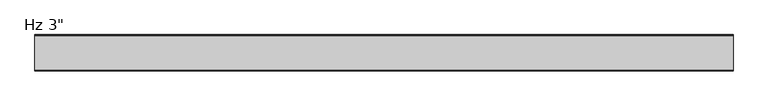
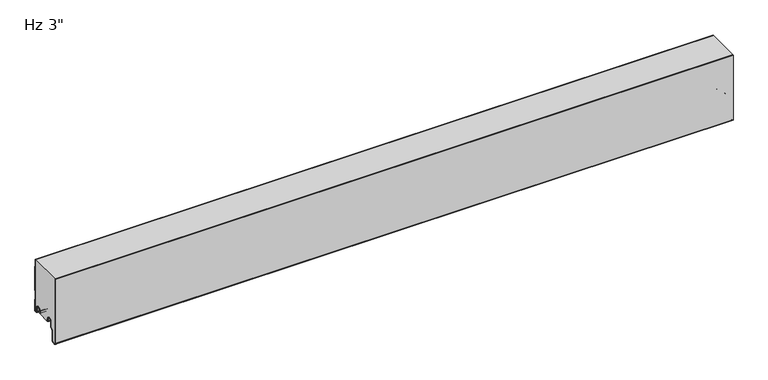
"""IFC4 building model written with IfcOpenShell, lengths in millimetres: plate geometry."""

from ifc_helpers import new_model, si_unit, point, frame, frame_2d, origin, place, context, project, spatial, polyline, circle_curve, trimmed, segment, composite_curve, outline, extrude, source, transform, mapped, element, save
from ifc_brep_helpers import plane_surface, cylinder_surface, revolved_surface, advanced_brep


def plate_75d5e287(model_context):
    return source(origin(), model_context, "Body", "SolidModel", [
        advanced_brep(
        [(-730.0, -17.0015159, 2.0313088), (-730.0, -18.0015191, 1.0313116), (-730.0, -19.0015105, 2.0313088), (-730.0, -19.0015105, 6.0315125), (-730.0, -18.0015159, 6.0315125), (-730.0, -18.0015159, 8.7237223), (-730.0, -14.7015202, 12.023718), (-730.0, -10.301529, 12.023718), (-730.0, -7.0015335, 8.7237225), (-730.0, -7.0015335, -1.6962564), (-730.0, -5.2315393, -3.4662506), (-730.0, -0.9999916, -3.4662506), (-730.0, -0.9999916, 21.034026), (-730.0, -2.2002307, 22.4196686), (-730.0, -2.2002307, 41.7948349), (-730.0, -1.0, 43.1804679), (-730.0, -1.0, 97.2338833), (-730.0, -2.2002307, 98.6195162), (-730.0, -2.2002307, 114.0), (-730.0, -1.2002307, 114.0), (-730.0, -1.2002307, 98.9923967), (-730.0, -0.3417885, 98.001349), (-730.0, 0.0, 97.0847321), (-730.0, 0.0, 43.329619), (-730.0, -0.3417885, 42.4130021), (-730.0, -1.2002307, 41.4219545), (-730.0, -1.2002307, 22.7925491), (-730.0, -0.3417885, 21.8015014), (-730.0, 0.0, 20.8847931), (-730.0, 8.4e-06, -3.0662545), (-730.0, -1.3999878, -4.4662506), (-730.0, -5.2315393, -4.4662506), (-730.0, -8.0015335, -1.6962564), (-730.0, -8.0015335, 8.7237225), (-730.0, -10.301529, 11.023718), (-730.0, -14.7015202, 11.023718), (-730.0, -17.0015159, 8.7237223), (730.0, -17.0015159, 2.0313088), (730.0, -17.0015159, 8.7237223), (730.0, -14.7015202, 11.023718), (730.0, -10.301529, 11.023718), (730.0, -8.0015335, 8.7237225), (730.0, -8.0015335, -1.6962564), (730.0, -5.2315393, -4.4662506), (730.0, -1.3999878, -4.4662506), (730.0, 8.4e-06, -3.0662545), (730.0, 8.4e-06, 20.8848845), (730.0, -0.3417885, 21.8015014), (730.0, -1.2002307, 22.7925491), (730.0, -1.2002307, 41.4219545), (730.0, -0.3417885, 42.4130021), (730.0, 0.0, 43.329619), (730.0, 0.0, 97.0847321), (730.0, -0.3417885, 98.001349), (730.0, -1.2002307, 98.9923967), (730.0, -1.2002307, 114.0), (730.0, -2.2002307, 114.0), (730.0, -2.2002307, 98.6195162), (730.0, -1.0, 97.2338833), (730.0, -1.0, 43.1804679), (730.0, -2.2002307, 41.7948349), (730.0, -2.2002307, 22.4196686), (730.0, -0.9999916, 21.034026), (730.0, -0.9999916, -3.4662506), (730.0, -5.2315393, -3.4662506), (730.0, -7.0015335, -1.6962564), (730.0, -7.0015335, 8.7237225), (730.0, -10.301529, 12.023718), (730.0, -14.7015202, 12.023718), (730.0, -18.0015159, 8.7237223), (730.0, -18.0015159, 6.0315125), (730.0, -19.0015105, 6.0315125), (730.0, -19.0015105, 2.0313088), (730.0, -18.0015192, 1.0313116)],
        [
            (0, 1, circle_curve(frame((-730.0, -18.0015132, 2.0313088), z_axis=(-1.0, 0.0, 0.0), x_axis=(0.0, 0.0, 1.0)), 0.9999973)),
            (1, 2, circle_curve(frame((-730.0, -18.0015133, 2.0313088), z_axis=(-1.0, 0.0, 0.0), x_axis=(0.0, 0.0, 1.0)), 0.9999972)),
            (2, 3),
            (3, 4),
            (4, 5),
            (5, 6, circle_curve(frame((-730.0, -14.7015202, 8.7237223), z_axis=(-1.0, 0.0, 0.0), x_axis=(0.0, 0.0, 1.0)), 3.2999957)),
            (6, 7),
            (7, 8, circle_curve(frame((-730.0, -10.301529, 8.7237225), z_axis=(-1.0, 0.0, 0.0), x_axis=(0.0, 0.0, 1.0)), 3.2999955)),
            (8, 9),
            (9, 10, circle_curve(frame((-730.0, -5.2315393, -1.6962564), z_axis=(1.0, 0.0, 0.0), x_axis=(0.0, 0.0, 1.0)), 1.7699942)),
            (10, 11),
            (11, 12),
            (12, 13),
            (13, 14),
            (14, 15),
            (15, 16),
            (16, 17),
            (17, 18),
            (18, 19),
            (19, 20),
            (20, 21),
            (21, 22, circle_curve(frame((-730.0, -1.3999972, 97.0847321), z_axis=(-1.0, 0.0, 0.0), x_axis=(0.0, 0.0, 1.0)), 1.3999972)),
            (22, 23),
            (23, 24, circle_curve(frame((-730.0, -1.3999972, 43.329619), z_axis=(-1.0, 0.0, 0.0), x_axis=(0.0, 0.0, 1.0)), 1.3999972)),
            (24, 25),
            (25, 26),
            (26, 27),
            (27, 28, circle_curve(frame((-730.0, -1.3999972, 20.8848845), z_axis=(-1.0, 0.0, 0.0), x_axis=(0.0, 0.0, 1.0)), 1.3999972)),
            (28, 29),
            (29, 30, circle_curve(frame((-730.0, -1.3999878, -3.0662545), z_axis=(-1.0, 0.0, 0.0), x_axis=(0.0, 0.0, 1.0)), 1.3999962)),
            (30, 31),
            (31, 32, circle_curve(frame((-730.0, -5.2315393, -1.6962564), z_axis=(-1.0, 0.0, 0.0), x_axis=(0.0, 0.0, 1.0)), 2.7699942)),
            (32, 33),
            (33, 34, circle_curve(frame((-730.0, -10.301529, 8.7237225), z_axis=(1.0, 0.0, 0.0), x_axis=(0.0, 0.0, 1.0)), 2.2999955)),
            (34, 35),
            (35, 36, circle_curve(frame((-730.0, -14.7015202, 8.7237223), z_axis=(1.0, 0.0, 0.0), x_axis=(0.0, 0.0, 1.0)), 2.2999957)),
            (36, 0),
            (37, 38),
            (38, 39, circle_curve(frame((730.0, -14.7015202, 8.7237223), z_axis=(-1.0, 0.0, 0.0), x_axis=(0.0, 0.0, 1.0)), 2.2999957)),
            (39, 40),
            (40, 41, circle_curve(frame((730.0, -10.301529, 8.7237225), z_axis=(-1.0, 0.0, 0.0), x_axis=(0.0, 0.0, 1.0)), 2.2999955)),
            (41, 42),
            (42, 43, circle_curve(frame((730.0, -5.2315393, -1.6962564), z_axis=(1.0, 0.0, 0.0), x_axis=(0.0, 0.0, 1.0)), 2.7699942)),
            (43, 44),
            (44, 45, circle_curve(frame((730.0, -1.3999878, -3.0662545), z_axis=(1.0, 0.0, 0.0), x_axis=(0.0, 0.0, 1.0)), 1.3999962)),
            (45, 46),
            (46, 47, circle_curve(frame((730.0, -1.3999972, 20.8848845), z_axis=(1.0, 0.0, 0.0), x_axis=(0.0, 0.0, 1.0)), 1.3999972)),
            (47, 48),
            (48, 49),
            (49, 50),
            (50, 51, circle_curve(frame((730.0, -1.3999972, 43.329619), z_axis=(1.0, 0.0, 0.0), x_axis=(0.0, 0.0, 1.0)), 1.3999972)),
            (51, 52),
            (52, 53, circle_curve(frame((730.0, -1.3999972, 97.0847321), z_axis=(1.0, 0.0, 0.0), x_axis=(0.0, 0.0, 1.0)), 1.3999972)),
            (53, 54),
            (54, 55),
            (55, 56),
            (56, 57),
            (57, 58),
            (58, 59),
            (59, 60),
            (60, 61),
            (61, 62),
            (62, 63),
            (63, 64),
            (64, 65, circle_curve(frame((730.0, -5.2315393, -1.6962564), z_axis=(-1.0, 0.0, 0.0), x_axis=(0.0, 0.0, 1.0)), 1.7699942)),
            (65, 66),
            (66, 67, circle_curve(frame((730.0, -10.301529, 8.7237225), z_axis=(1.0, 0.0, 0.0), x_axis=(0.0, 0.0, 1.0)), 3.2999955)),
            (67, 68),
            (68, 69, circle_curve(frame((730.0, -14.7015202, 8.7237223), z_axis=(1.0, 0.0, 0.0), x_axis=(0.0, 0.0, 1.0)), 3.2999957)),
            (69, 70),
            (70, 71),
            (71, 72),
            (72, 73, circle_curve(frame((730.0, -18.0015133, 2.0313088), z_axis=(1.0, 0.0, 0.0), x_axis=(0.0, 0.0, 1.0)), 0.9999972)),
            (73, 37, circle_curve(frame((730.0, -18.0015132, 2.0313088), z_axis=(1.0, 0.0, 0.0), x_axis=(0.0, 0.0, 1.0)), 0.9999973)),
            (18, 56),
            (55, 19),
            (36, 38),
            (37, 0),
            (35, 39),
            (34, 40),
            (33, 41),
            (32, 42),
            (31, 43),
            (30, 44),
            (29, 45),
            (28, 46),
            (27, 47),
            (26, 48),
            (25, 49),
            (24, 50),
            (23, 51),
            (22, 52),
            (21, 53),
            (20, 54),
            (17, 57),
            (16, 58),
            (15, 59),
            (14, 60),
            (13, 61),
            (12, 62),
            (11, 63),
            (10, 64),
            (9, 65),
            (8, 66),
            (7, 67),
            (6, 68),
            (5, 69),
            (4, 70),
            (3, 71),
            (2, 72),
            (1, 73),
        ],
        [
            plane_surface(frame((-730.0, 0.0, 381.0), z_axis=(-1.0, 0.0, 0.0), x_axis=(0.0, 1.0, 0.0))),
            plane_surface(frame((730.0, 0.0, 381.0), z_axis=(1.0, 0.0, 0.0), x_axis=(0.0, 1.0, 0.0))),
            plane_surface(frame((730.0, 10.0, 114.0), z_axis=(0.0, 0.0, 1.0), x_axis=(-1.0, 0.0, 0.0))),
            plane_surface(frame((-730.0, -17.0015159, 2.0313088), z_axis=(0.0, 1.0, 0.0), x_axis=(1.0, 0.0, 0.0))),
            revolved_surface(polyline([(730.0, -14.7015202, 11.023718), (-730.0, -14.7015202, 11.023718)]), (-730.0, -14.7015202, 8.7237223), (1.0, 0.0, 0.0)),
            plane_surface(frame((-730.0, -14.7015202, 11.023718), z_axis=(0.0, 0.0, -1.0), x_axis=(1.0, 0.0, 0.0))),
            revolved_surface(polyline([(730.0, -10.301529, 11.023717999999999), (-730.0, -10.301529, 11.023717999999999)]), (-730.0, -10.301529, 8.7237225), (1.0, 0.0, 0.0)),
            plane_surface(frame((-730.0, -8.0015335, 8.7237225), z_axis=(0.0, -1.0, 0.0), x_axis=(1.0, 0.0, 0.0))),
            cylinder_surface(frame((-730.0, -5.2315393, -1.6962564), z_axis=(-1.0, 0.0, 0.0), x_axis=(0.0, 0.0, 1.0)), 2.7699942),
            plane_surface(frame((-730.0, -5.2315393, -4.4662506), z_axis=(0.0, 0.0, -1.0), x_axis=(1.0, 0.0, 0.0))),
            cylinder_surface(frame((-730.0, -1.3999878, -3.0662545), z_axis=(-1.0, 0.0, 0.0), x_axis=(0.0, 0.0, 1.0)), 1.3999962),
            plane_surface(frame((-730.0, 8.4e-06, -3.0662545), z_axis=(0.0, 1.0, 0.0), x_axis=(1.0, 0.0, 0.0))),
            cylinder_surface(frame((-730.0, -1.3999972, 20.8848845), z_axis=(-1.0, 0.0, 0.0), x_axis=(0.0, 0.0, 1.0)), 1.3999972),
            plane_surface(frame((-730.0, -0.3417885, 21.8015014), z_axis=(0.0, 0.755864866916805, 0.6547276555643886), x_axis=(1.0, 0.0, 0.0))),
            plane_surface(frame((-730.0, -1.2002307, 32.1072518), z_axis=(0.0, 1.0, 0.0), x_axis=(1.0, 0.0, 0.0))),
            plane_surface(frame((-730.0, -1.2002307, 41.4219545), z_axis=(0.0, 0.755864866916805, -0.6547276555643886), x_axis=(1.0, 0.0, 0.0))),
            cylinder_surface(frame((-730.0, -1.3999972, 43.329619), z_axis=(-1.0, 0.0, 0.0), x_axis=(0.0, 0.0, 1.0)), 1.3999972),
            plane_surface(frame((-730.0, 0.0, 43.329619), z_axis=(0.0, 1.0, 0.0), x_axis=(1.0, 0.0, 0.0))),
            cylinder_surface(frame((-730.0, -1.3999972, 97.0847321), z_axis=(-1.0, 0.0, 0.0), x_axis=(0.0, 0.0, 1.0)), 1.3999972),
            plane_surface(frame((-730.0, -0.3417885, 98.001349), z_axis=(0.0, 0.755864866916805, 0.6547276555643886), x_axis=(1.0, 0.0, 0.0))),
            plane_surface(frame((-730.0, -1.2002307, 108.3070994), z_axis=(0.0, 1.0, 0.0), x_axis=(1.0, 0.0, 0.0))),
            plane_surface(frame((-730.0, -2.2002307, 117.9946825), z_axis=(0.0, -1.0, 0.0), x_axis=(1.0, 0.0, 0.0))),
            plane_surface(frame((-730.0, -2.2002307, 98.6195162), z_axis=(0.0, -0.755864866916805, -0.6547276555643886), x_axis=(1.0, 0.0, 0.0))),
            plane_surface(frame((-730.0, -1.0, 97.2338833), z_axis=(0.0, -1.0, 0.0), x_axis=(1.0, 0.0, 0.0))),
            plane_surface(frame((-730.0, -1.0, 43.1804679), z_axis=(0.0, -0.755864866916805, 0.6547276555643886), x_axis=(1.0, 0.0, 0.0))),
            plane_surface(frame((-730.0, -2.2002307, 41.7948349), z_axis=(0.0, -1.0, 0.0), x_axis=(1.0, 0.0, 0.0))),
            plane_surface(frame((-730.0, -2.2002307, 22.4196686), z_axis=(0.0, -0.755864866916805, -0.6547276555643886), x_axis=(1.0, 0.0, 0.0))),
            plane_surface(frame((-730.0, -0.9999916, 21.034026), z_axis=(0.0, -1.0, 0.0), x_axis=(1.0, 0.0, 0.0))),
            plane_surface(frame((-730.0, -0.9999916, -3.4662506), z_axis=(0.0, 0.0, 1.0), x_axis=(1.0, 0.0, 0.0))),
            revolved_surface(polyline([(730.0, -5.2315393, 0.07373779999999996), (-730.0, -5.2315393, 0.07373779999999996)]), (-730.0, -5.2315393, -1.6962564), (1.0, 0.0, 0.0)),
            plane_surface(frame((-730.0, -7.0015335, -1.6962564), z_axis=(0.0, 1.0, 0.0), x_axis=(1.0, 0.0, 0.0))),
            cylinder_surface(frame((-730.0, -10.301529, 8.7237225), z_axis=(-1.0, 0.0, 0.0), x_axis=(0.0, 0.0, 1.0)), 3.2999955),
            plane_surface(frame((-730.0, -10.301529, 12.023718), z_axis=(0.0, 0.0, 1.0), x_axis=(1.0, 0.0, 0.0))),
            cylinder_surface(frame((-730.0, -14.7015202, 8.7237223), z_axis=(-1.0, 0.0, 0.0), x_axis=(0.0, 0.0, 1.0)), 3.2999957),
            plane_surface(frame((-730.0, -18.0015159, 8.7237223), z_axis=(0.0, -1.0, 0.0), x_axis=(1.0, 0.0, 0.0))),
            plane_surface(frame((-730.0, -18.0015159, 6.0315125), z_axis=(0.0, 0.0, 1.0), x_axis=(1.0, 0.0, 0.0))),
            plane_surface(frame((-730.0, -19.0015105, 6.0315125), z_axis=(0.0, -1.0, 0.0), x_axis=(1.0, 0.0, 0.0))),
            cylinder_surface(frame((-730.0, -18.0015133, 2.0313088), z_axis=(-1.0, 0.0, 0.0), x_axis=(0.0, 0.0, 1.0)), 0.9999972),
            cylinder_surface(frame((-730.0, -18.0015132, 2.0313088), z_axis=(-1.0, 0.0, 0.0), x_axis=(0.0, 0.0, 1.0)), 0.9999973),
        ],
        [
            (0, [[1, 2, 3, 4, 5, 6, 7, 8, 9, 10, 11, 12, 13, 14, 15, 16, 17, 18, 19, 20, 21, 22, 23, 24, 25, 26, 27, 28, 29, 30, 31, 32, 33, 34, 35, 36, 37]]),
            (1, [[38, 39, 40, 41, 42, 43, 44, 45, 46, 47, 48, 49, 50, 51, 52, 53, 54, 55, 56, 57, 58, 59, 60, 61, 62, 63, 64, 65, 66, 67, 68, 69, 70, 71, 72, 73, 74]]),
            (2, [[75, -56, 76, -19]]),
            (3, [[77, -38, 78, -37]]),
            (4, [[79, -39, -77, -36]]),
            (5, [[80, -40, -79, -35]]),
            (6, [[81, -41, -80, -34]]),
            (7, [[82, -42, -81, -33]]),
            (8, [[83, -43, -82, -32]]),
            (9, [[84, -44, -83, -31]]),
            (10, [[85, -45, -84, -30]]),
            (11, [[86, -46, -85, -29]]),
            (12, [[87, -47, -86, -28]]),
            (13, [[88, -48, -87, -27]]),
            (14, [[89, -49, -88, -26]]),
            (15, [[90, -50, -89, -25]]),
            (16, [[91, -51, -90, -24]]),
            (17, [[92, -52, -91, -23]]),
            (18, [[93, -53, -92, -22]]),
            (19, [[94, -54, -93, -21]]),
            (20, [[-20, -76, -55, -94]]),
            (21, [[-57, -75, -18, 95]]),
            (22, [[96, -58, -95, -17]]),
            (23, [[97, -59, -96, -16]]),
            (24, [[98, -60, -97, -15]]),
            (25, [[99, -61, -98, -14]]),
            (26, [[100, -62, -99, -13]]),
            (27, [[101, -63, -100, -12]]),
            (28, [[102, -64, -101, -11]]),
            (29, [[103, -65, -102, -10]]),
            (30, [[104, -66, -103, -9]]),
            (31, [[105, -67, -104, -8]]),
            (32, [[106, -68, -105, -7]]),
            (33, [[107, -69, -106, -6]]),
            (34, [[108, -70, -107, -5]]),
            (35, [[109, -71, -108, -4]]),
            (36, [[110, -72, -109, -3]]),
            (37, [[111, -73, -110, -2]]),
            (38, [[-78, -74, -111, -1]]),
        ],
    ),
        extrude(outline(composite_curve([segment(trimmed(circle_curve(frame_2d((-72.6296795, -32.4521105)), 3.5702393), [point((-72.3184091, -36.0087549))], [point((-76.1999188, -32.4521083))], False, "CARTESIAN"), True, "CONTINUOUS"), segment(polyline([(-76.1999188, -32.4521083), (-76.1998251, 114.0), (-75.1993606, 114.0), (-75.1993606, -32.509446)]), True, "CONTINUOUS"), segment(trimmed(circle_curve(frame_2d((-72.6297607, -32.4521176)), 2.5702393), [point((-75.1993606, -32.509446))], [point((-72.4056751, -35.0125699))], True, "CARTESIAN"), True, "CONTINUOUS"), segment(polyline([(-72.4056751, -35.0125699), (-67.4238542, -34.5765709)]), True, "CONTINUOUS"), segment(trimmed(circle_curve(frame_2d((-67.9052448, -31.9198392)), 2.6999926), [point((-67.4238542, -34.5765709))], [point((-65.2052522, -31.9198392))], True, "CARTESIAN"), True, "CONTINUOUS"), segment(polyline([(-65.2052522, -31.9198392), (-65.2052522, -9.8247096), (-59.7031811, -4.3226385)]), True, "CONTINUOUS"), segment(trimmed(circle_curve(frame_2d((-60.9052588, -3.1205608)), 1.6999946), [point((-59.7031811, -4.3226385))], [point((-59.2052642, -3.1205608))], True, "CARTESIAN"), True, "CONTINUOUS"), segment(polyline([(-59.2052642, -3.1205608), (-59.2052642, 8.6903283)]), True, "CONTINUOUS"), segment(trimmed(circle_curve(frame_2d((-55.8552689, 8.6903283)), 3.3499953), [point((-59.2052642, 8.6903283))], [point((-55.8552689, 12.0403236))], False, "CARTESIAN"), True, "CONTINUOUS"), segment(polyline([(-55.8552689, 12.0403236), (-51.4552777, 12.0403236)]), True, "CONTINUOUS"), segment(trimmed(circle_curve(frame_2d((-51.4552777, 8.6903283)), 3.3499953), [point((-51.4552777, 12.0403236))], [point((-48.1052824, 8.6903283))], False, "CARTESIAN"), True, "CONTINUOUS"), segment(polyline([(-48.1052824, 8.6903283), (-48.1052824, 5.9912173), (-46.7068035, 5.9912173), (-46.7068035, 2.2328239)]), True, "CONTINUOUS"), segment(trimmed(circle_curve(frame_2d((-47.9068002, 2.2313092)), 1.1999976), [point((-46.7068035, 2.2328239))], [point((-47.8762782, 1.0316999))], False, "CARTESIAN"), True, "CONTINUOUS"), segment(trimmed(circle_curve(frame_2d((-47.9068002, 2.2313092)), 1.1999976), [point((-47.8762782, 1.0316999))], [point((-49.1052824, 2.1710221))], False, "CARTESIAN"), True, "CONTINUOUS"), segment(polyline([(-49.1052824, 2.1710221), (-49.1052824, 8.6903283)]), True, "CONTINUOUS"), segment(trimmed(circle_curve(frame_2d((-51.4552777, 8.6903283)), 2.3499953), [point((-49.1052824, 8.6903283))], [point((-51.4552777, 11.0403236))], True, "CARTESIAN"), True, "CONTINUOUS"), segment(polyline([(-51.4552777, 11.0403236), (-55.8552689, 11.0403236)]), True, "CONTINUOUS"), segment(trimmed(circle_curve(frame_2d((-55.8552689, 8.6903283)), 2.3499953), [point((-55.8552689, 11.0403236))], [point((-58.2052642, 8.6903283))], True, "CARTESIAN"), True, "CONTINUOUS"), segment(polyline([(-58.2052642, 8.6903283), (-58.2052642, -3.1205608)]), True, "CONTINUOUS"), segment(trimmed(circle_curve(frame_2d((-60.9052588, -3.1205608)), 2.6999946), [point((-58.2052642, -3.1205608))], [point((-58.9960743, -5.0297453))], False, "CARTESIAN"), True, "CONTINUOUS"), segment(polyline([(-58.9960743, -5.0297453), (-63.8244918, -9.8581627)]), True, "CONTINUOUS"), segment(trimmed(circle_curve(frame_2d((-62.9052548, -10.7773997)), 1.2999974), [point((-63.8244918, -9.8581627))], [point((-64.2052522, -10.7773997))], True, "CARTESIAN"), True, "CONTINUOUS"), segment(polyline([(-64.2052522, -10.7773997), (-64.2052522, -31.9198392)]), True, "CONTINUOUS"), segment(trimmed(circle_curve(frame_2d((-67.9052448, -31.9198392)), 3.6999926), [point((-64.2052522, -31.9198392))], [point((-67.2944437, -35.5690675))], False, "CARTESIAN"), True, "CONTINUOUS"), segment(polyline([(-67.2944437, -35.5690675), (-72.3184091, -36.0087549)]), True, "CONTINUOUS")], self_intersect=False)), frame((-730.0, 0.0, 0.0), z_axis=(1.0, 0.0, 0.0), x_axis=(0.0, 1.0, 0.0)), (0.0, 0.0, 1.0), 1460.0),
        advanced_brep(
        [(-730.0, -47.870875, 1.0316999), (-730.0, -46.7014003, 2.2328239), (-730.0, -46.7014003, 5.9912173), (-730.0, -48.0998791, 5.9912173), (-730.0, -48.0998791, 8.6903283), (-730.0, -51.4498744, 12.0403236), (-730.0, -55.8498656, 12.0403236), (-730.0, -59.1998609, 8.6903283), (-730.0, -59.1998609, -3.1205608), (-730.0, -59.6977778, -4.3226385), (-730.0, -65.1998489, -9.8247096), (-730.0, -65.1998489, -31.9198392), (-730.0, -67.4184509, -34.5765709), (-730.0, -72.4002718, -35.0125699), (-730.0, -75.1945967, -32.4521176), (-730.0, -75.2, 114.0), (-730.0, -2.2002307, 114.0), (-730.0, -2.2002307, 98.6195163), (-730.0, -1.0, 97.2338833), (-730.0, -1.0, 43.1804679), (-730.0, -2.2002307, 41.794835), (-730.0, -2.2002307, 22.4196687), (-730.0, -0.9999916, 21.034026), (-730.0, -0.9999916, -3.4662506), (-730.0, -5.2315389, -3.4662506), (-730.0, -7.0015331, -1.6962564), (-730.0, -7.0015331, 8.7237222), (-730.0, -10.301529, 12.023718), (-730.0, -14.7015202, 12.023718), (-730.0, -18.0015159, 8.7237223), (-730.0, -18.0015159, 6.0315125), (-730.0, -19.0015105, 6.0315125), (-730.0, -19.0015105, 2.0313089), (-730.0, -18.0015192, 1.0313117), (-730.0, -19.0328308, 0.0), (-730.0, -46.8391751, 0.0), (730.0, -47.870875, 1.0316999), (730.0, -46.8391751, 0.0), (730.0, -19.0328308, 0.0), (730.0, -18.0015192, 1.0313117), (730.0, -19.0015105, 2.0313089), (730.0, -19.0015105, 6.0315125), (730.0, -18.0015159, 6.0315125), (730.0, -18.0015159, 8.7237223), (730.0, -14.7015202, 12.023718), (730.0, -10.301529, 12.023718), (730.0, -7.0015331, 8.7237222), (730.0, -7.0015331, -1.6962564), (730.0, -5.2315389, -3.4662506), (730.0, -0.9999916, -3.4662506), (730.0, -0.9999916, 21.034026), (730.0, -2.2002307, 22.4196687), (730.0, -2.2002307, 41.794835), (730.0, -1.0, 43.1804679), (730.0, -1.0, 97.2338833), (730.0, -2.2002307, 98.6195163), (730.0, -2.2002307, 114.0), (730.0, -75.2, 114.0), (730.0, -75.2, -32.4521176), (730.0, -72.4002718, -35.0125699), (730.0, -67.4184509, -34.5765709), (730.0, -65.1998489, -31.9198392), (730.0, -65.1998489, -9.8247096), (730.0, -59.6977778, -4.3226385), (730.0, -59.1998609, -3.1205608), (730.0, -59.1998609, 8.6903283), (730.0, -55.8498656, 12.0403236), (730.0, -51.4498744, 12.0403236), (730.0, -48.0998791, 8.6903283), (730.0, -48.0998791, 5.9912173), (730.0, -46.7014003, 5.9912173), (730.0, -46.7014003, 2.2328239)],
        [
            (0, 1, circle_curve(frame((-730.0, -47.9013969, 2.2313092), z_axis=(1.0, 0.0, 0.0), x_axis=(0.0, 0.0, -1.0)), 1.1999976)),
            (1, 2),
            (2, 3),
            (3, 4),
            (4, 5, circle_curve(frame((-730.0, -51.4498744, 8.6903283), z_axis=(1.0, 0.0, 0.0), x_axis=(0.0, 0.0, -1.0)), 3.3499953)),
            (5, 6),
            (6, 7, circle_curve(frame((-730.0, -55.8498656, 8.6903283), z_axis=(1.0, 0.0, 0.0), x_axis=(0.0, 0.0, -1.0)), 3.3499953)),
            (7, 8),
            (8, 9, circle_curve(frame((-730.0, -60.8998555, -3.1205608), z_axis=(-1.0, 0.0, 0.0), x_axis=(0.0, 0.0, -1.0)), 1.6999946)),
            (9, 10),
            (10, 11),
            (11, 12, circle_curve(frame((-730.0, -67.8998415, -31.9198392), z_axis=(-1.0, 0.0, 0.0), x_axis=(0.0, 0.0, -1.0)), 2.6999926)),
            (12, 13),
            (13, 14, circle_curve(frame((-730.0, -72.6243575, -32.4521176), z_axis=(-1.0, 0.0, 0.0), x_axis=(0.0, 0.0, -1.0)), 2.5702393)),
            (14, 15),
            (15, 16),
            (16, 17),
            (17, 18),
            (18, 19),
            (19, 20),
            (20, 21),
            (21, 22),
            (22, 23),
            (23, 24),
            (24, 25, circle_curve(frame((-730.0, -5.2315389, -1.6962564), z_axis=(-1.0, 0.0, 0.0), x_axis=(0.0, 0.0, 1.0)), 1.7699942)),
            (25, 26),
            (26, 27, circle_curve(frame((-730.0, -10.301529, 8.7237222), z_axis=(1.0, 0.0, 0.0), x_axis=(0.0, 0.0, 1.0)), 3.2999959)),
            (27, 28),
            (28, 29, circle_curve(frame((-730.0, -14.7015202, 8.7237223), z_axis=(1.0, 0.0, 0.0), x_axis=(0.0, 0.0, 1.0)), 3.2999957)),
            (29, 30),
            (30, 31),
            (31, 32),
            (32, 33, circle_curve(frame((-730.0, -18.0015133, 2.0313089), z_axis=(1.0, 0.0, 0.0), x_axis=(0.0, 0.0, 1.0)), 0.9999972)),
            (33, 34),
            (34, 35),
            (35, 0),
            (36, 37),
            (37, 38),
            (38, 39),
            (39, 40, circle_curve(frame((730.0, -18.0015133, 2.0313089), z_axis=(-1.0, 0.0, 0.0), x_axis=(0.0, 0.0, 1.0)), 0.9999972)),
            (40, 41),
            (41, 42),
            (42, 43),
            (43, 44, circle_curve(frame((730.0, -14.7015202, 8.7237223), z_axis=(-1.0, 0.0, 0.0), x_axis=(0.0, 0.0, 1.0)), 3.2999957)),
            (44, 45),
            (45, 46, circle_curve(frame((730.0, -10.301529, 8.7237222), z_axis=(-1.0, 0.0, 0.0), x_axis=(0.0, 0.0, 1.0)), 3.2999959)),
            (46, 47),
            (47, 48, circle_curve(frame((730.0, -5.2315389, -1.6962564), z_axis=(1.0, 0.0, 0.0), x_axis=(0.0, 0.0, 1.0)), 1.7699942)),
            (48, 49),
            (49, 50),
            (50, 51),
            (51, 52),
            (52, 53),
            (53, 54),
            (54, 55),
            (55, 56),
            (56, 57),
            (57, 58),
            (58, 59, circle_curve(frame((730.0, -72.6243575, -32.4521176), z_axis=(1.0, 0.0, 0.0), x_axis=(0.0, 0.0, -1.0)), 2.5702393)),
            (59, 60),
            (60, 61, circle_curve(frame((730.0, -67.8998415, -31.9198392), z_axis=(1.0, 0.0, 0.0), x_axis=(0.0, 0.0, -1.0)), 2.6999926)),
            (61, 62),
            (62, 63),
            (63, 64, circle_curve(frame((730.0, -60.8998555, -3.1205608), z_axis=(1.0, 0.0, 0.0), x_axis=(0.0, 0.0, -1.0)), 1.6999946)),
            (64, 65),
            (65, 66, circle_curve(frame((730.0, -55.8498656, 8.6903283), z_axis=(-1.0, 0.0, 0.0), x_axis=(0.0, 0.0, -1.0)), 3.3499953)),
            (66, 67),
            (67, 68, circle_curve(frame((730.0, -51.4498744, 8.6903283), z_axis=(-1.0, 0.0, 0.0), x_axis=(0.0, 0.0, -1.0)), 3.3499953)),
            (68, 69),
            (69, 70),
            (70, 71),
            (71, 36, circle_curve(frame((730.0, -47.9013969, 2.2313092), z_axis=(-1.0, 0.0, 0.0), x_axis=(0.0, 0.0, -1.0)), 1.1999976)),
            (35, 37),
            (36, 0),
            (34, 38),
            (57, 15),
            (14, 58),
            (13, 59),
            (12, 60),
            (11, 61),
            (10, 62),
            (9, 63),
            (8, 64),
            (7, 65),
            (6, 66),
            (5, 67),
            (4, 68),
            (3, 69),
            (2, 70),
            (1, 71),
            (56, 16),
            (33, 39),
            (32, 40),
            (31, 41),
            (30, 42),
            (29, 43),
            (28, 44),
            (27, 45),
            (26, 46),
            (25, 47),
            (24, 48),
            (23, 49),
            (22, 50),
            (21, 51),
            (20, 52),
            (19, 53),
            (18, 54),
            (17, 55),
        ],
        [
            plane_surface(frame((-730.0, -75.2, 381.0), z_axis=(-1.0, 0.0, 0.0), x_axis=(0.0, -1.0, 0.0))),
            plane_surface(frame((730.0, -75.2, 381.0), z_axis=(1.0, 0.0, 0.0), x_axis=(0.0, -1.0, 0.0))),
            plane_surface(frame((-730.0, -47.870875, 1.0316999), z_axis=(0.0, -0.7071067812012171, -0.707106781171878), x_axis=(1.0, 0.0, 0.0))),
            plane_surface(frame((-730.0, -46.8391751, 0.0), z_axis=(0.0, 0.0, -1.0), x_axis=(1.0, 0.0, 0.0))),
            plane_surface(frame((-730.0, -75.2, 713.515622), z_axis=(0.0, -1.0, 0.0), x_axis=(1.0, 0.0, 0.0))),
            cylinder_surface(frame((-730.0, -72.6243575, -32.4521176), z_axis=(-1.0, 0.0, 0.0), x_axis=(0.0, 0.0, -1.0)), 2.5702393),
            plane_surface(frame((-730.0, -72.4002718, -35.0125699), z_axis=(0.0, 0.08718474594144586, -0.9961921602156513), x_axis=(1.0, 0.0, 0.0))),
            cylinder_surface(frame((-730.0, -67.8998415, -31.9198392), z_axis=(-1.0, 0.0, 0.0), x_axis=(0.0, 0.0, -1.0)), 2.6999926),
            plane_surface(frame((-730.0, -65.1998489, -31.9198392), z_axis=(0.0, 1.0, 0.0), x_axis=(1.0, 0.0, 0.0))),
            plane_surface(frame((-730.0, -65.1998489, -9.8247096), z_axis=(0.0, 0.7071067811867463, -0.7071067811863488), x_axis=(1.0, 0.0, 0.0))),
            cylinder_surface(frame((-730.0, -60.8998555, -3.1205608), z_axis=(-1.0, 0.0, 0.0), x_axis=(0.0, 0.0, -1.0)), 1.6999946),
            plane_surface(frame((-730.0, -59.1998609, -3.1205608), z_axis=(0.0, 1.0, 0.0), x_axis=(1.0, 0.0, 0.0))),
            revolved_surface(polyline([(730.0, -55.8498656, 5.340332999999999), (-730.0, -55.8498656, 5.340332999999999)]), (-730.0, -55.8498656, 8.6903283), (1.0, 0.0, 0.0)),
            plane_surface(frame((-730.0, -55.8498656, 12.0403236), z_axis=(0.0, 0.0, -1.0), x_axis=(1.0, 0.0, 0.0))),
            revolved_surface(polyline([(730.0, -51.4498744, 5.340332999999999), (-730.0, -51.4498744, 5.340332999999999)]), (-730.0, -51.4498744, 8.6903283), (1.0, 0.0, 0.0)),
            plane_surface(frame((-730.0, -48.0998791, 8.6903283), z_axis=(0.0, -1.0, 0.0), x_axis=(1.0, 0.0, 0.0))),
            plane_surface(frame((-730.0, -48.0998791, 5.9912173), z_axis=(0.0, 0.0, -1.0), x_axis=(1.0, 0.0, 0.0))),
            plane_surface(frame((-730.0, -46.7014003, 5.9912173), z_axis=(0.0, -1.0, 0.0), x_axis=(1.0, 0.0, 0.0))),
            revolved_surface(polyline([(730.0, -47.9013969, 1.0313116), (-730.0, -47.9013969, 1.0313116)]), (-730.0, -47.9013969, 2.2313092), (1.0, 0.0, 0.0)),
            plane_surface(frame((730.0, 10.0, 114.0), z_axis=(0.0, 0.0, 1.0), x_axis=(-1.0, 0.0, 0.0))),
            plane_surface(frame((-730.0, -19.0328308, 0.0), z_axis=(0.0, 0.7071067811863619, -0.7071067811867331), x_axis=(1.0, 0.0, 0.0))),
            revolved_surface(polyline([(730.0, -18.0015133, 3.0313061), (-730.0, -18.0015133, 3.0313061)]), (-730.0, -18.0015133, 2.0313089), (1.0, 0.0, 0.0)),
            plane_surface(frame((-730.0, -19.0015105, 2.0313089), z_axis=(0.0, 1.0, 0.0), x_axis=(1.0, 0.0, 0.0))),
            plane_surface(frame((-730.0, -19.0015105, 6.0315125), z_axis=(0.0, 0.0, -1.0), x_axis=(1.0, 0.0, 0.0))),
            plane_surface(frame((-730.0, -18.0015159, 6.0315125), z_axis=(0.0, 1.0, 0.0), x_axis=(1.0, 0.0, 0.0))),
            revolved_surface(polyline([(730.0, -14.7015202, 12.023718), (-730.0, -14.7015202, 12.023718)]), (-730.0, -14.7015202, 8.7237223), (1.0, 0.0, 0.0)),
            plane_surface(frame((-730.0, -14.7015202, 12.023718), z_axis=(0.0, 0.0, -1.0), x_axis=(1.0, 0.0, 0.0))),
            revolved_surface(polyline([(730.0, -10.301529, 12.0237181), (-730.0, -10.301529, 12.0237181)]), (-730.0, -10.301529, 8.7237222), (1.0, 0.0, 0.0)),
            plane_surface(frame((-730.0, -7.0015331, 8.7237222), z_axis=(0.0, -1.0, 0.0), x_axis=(1.0, 0.0, 0.0))),
            cylinder_surface(frame((-730.0, -5.2315389, -1.6962564), z_axis=(-1.0, 0.0, 0.0), x_axis=(0.0, 0.0, 1.0)), 1.7699942),
            plane_surface(frame((-730.0, -5.2315389, -3.4662506), z_axis=(0.0, 0.0, -1.0), x_axis=(1.0, 0.0, 0.0))),
            plane_surface(frame((-730.0, -0.9999916, -3.4662506), z_axis=(0.0, 1.0, 0.0), x_axis=(1.0, 0.0, 0.0))),
            plane_surface(frame((-730.0, -0.9999916, 21.034026), z_axis=(0.0, 0.7558648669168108, 0.6547276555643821), x_axis=(1.0, 0.0, 0.0))),
            plane_surface(frame((-730.0, -2.2002307, 22.4196687), z_axis=(0.0, 1.0, 0.0), x_axis=(1.0, 0.0, 0.0))),
            plane_surface(frame((-730.0, -2.2002307, 41.794835), z_axis=(0.0, 0.7558648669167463, -0.6547276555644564), x_axis=(1.0, 0.0, 0.0))),
            plane_surface(frame((-730.0, -1.0, 43.1804679), z_axis=(0.0, 1.0, 0.0), x_axis=(1.0, 0.0, 0.0))),
            plane_surface(frame((-730.0, -1.0, 97.2338833), z_axis=(0.0, 0.7558648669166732, 0.6547276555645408), x_axis=(1.0, 0.0, 0.0))),
            plane_surface(frame((-730.0, -2.2002307, 98.6195163), z_axis=(0.0, 1.0, 0.0), x_axis=(1.0, 0.0, 0.0))),
        ],
        [
            (0, [[1, 2, 3, 4, 5, 6, 7, 8, 9, 10, 11, 12, 13, 14, 15, 16, 17, 18, 19, 20, 21, 22, 23, 24, 25, 26, 27, 28, 29, 30, 31, 32, 33, 34, 35, 36]]),
            (1, [[37, 38, 39, 40, 41, 42, 43, 44, 45, 46, 47, 48, 49, 50, 51, 52, 53, 54, 55, 56, 57, 58, 59, 60, 61, 62, 63, 64, 65, 66, 67, 68, 69, 70, 71, 72]]),
            (2, [[73, -37, 74, -36]]),
            (3, [[-35, 75, -38, -73]]),
            (4, [[-58, 76, -15, 77]]),
            (5, [[78, -59, -77, -14]]),
            (6, [[79, -60, -78, -13]]),
            (7, [[80, -61, -79, -12]]),
            (8, [[81, -62, -80, -11]]),
            (9, [[82, -63, -81, -10]]),
            (10, [[83, -64, -82, -9]]),
            (11, [[84, -65, -83, -8]]),
            (12, [[85, -66, -84, -7]]),
            (13, [[86, -67, -85, -6]]),
            (14, [[87, -68, -86, -5]]),
            (15, [[88, -69, -87, -4]]),
            (16, [[89, -70, -88, -3]]),
            (17, [[90, -71, -89, -2]]),
            (18, [[-74, -72, -90, -1]]),
            (19, [[-76, -57, 91, -16]]),
            (20, [[92, -39, -75, -34]]),
            (21, [[93, -40, -92, -33]]),
            (22, [[94, -41, -93, -32]]),
            (23, [[95, -42, -94, -31]]),
            (24, [[96, -43, -95, -30]]),
            (25, [[97, -44, -96, -29]]),
            (26, [[98, -45, -97, -28]]),
            (27, [[99, -46, -98, -27]]),
            (28, [[100, -47, -99, -26]]),
            (29, [[101, -48, -100, -25]]),
            (30, [[102, -49, -101, -24]]),
            (31, [[103, -50, -102, -23]]),
            (32, [[104, -51, -103, -22]]),
            (33, [[105, -52, -104, -21]]),
            (34, [[106, -53, -105, -20]]),
            (35, [[107, -54, -106, -19]]),
            (36, [[108, -55, -107, -18]]),
            (37, [[-17, -91, -56, -108]]),
        ],
    ),
    ])


if __name__ == "__main__":
    model = new_model("IFC4")
    model_context = context("Model", 3, world=origin())
    ifc_project = project(units=[si_unit("LENGTHUNIT", "METRE", prefix="MILLI")], contexts=[model_context])
    site = spatial("IfcSite", under=ifc_project)
    building = spatial("IfcBuilding", under=site)
    placement = place(None, origin())
    plate_shape = plate_75d5e287(model_context)
    element("IfcPlate", 1, ObjectType="KIP-30-Karrier-KP-R19-CP-Hz-FL3-8in_SL : Hz 3\"", at=placement, inside=building, context=model_context, shape_type="MappedRepresentation", body=[
        mapped(plate_shape, transform((0.0, 0.0, 0.0), x_axis=(1.0, 0.0, 0.0), y_axis=(0.0, 1.0, 0.0), z_axis=(0.0, 0.0, 1.0))),
    ])
    save(model, "model.ifc")
